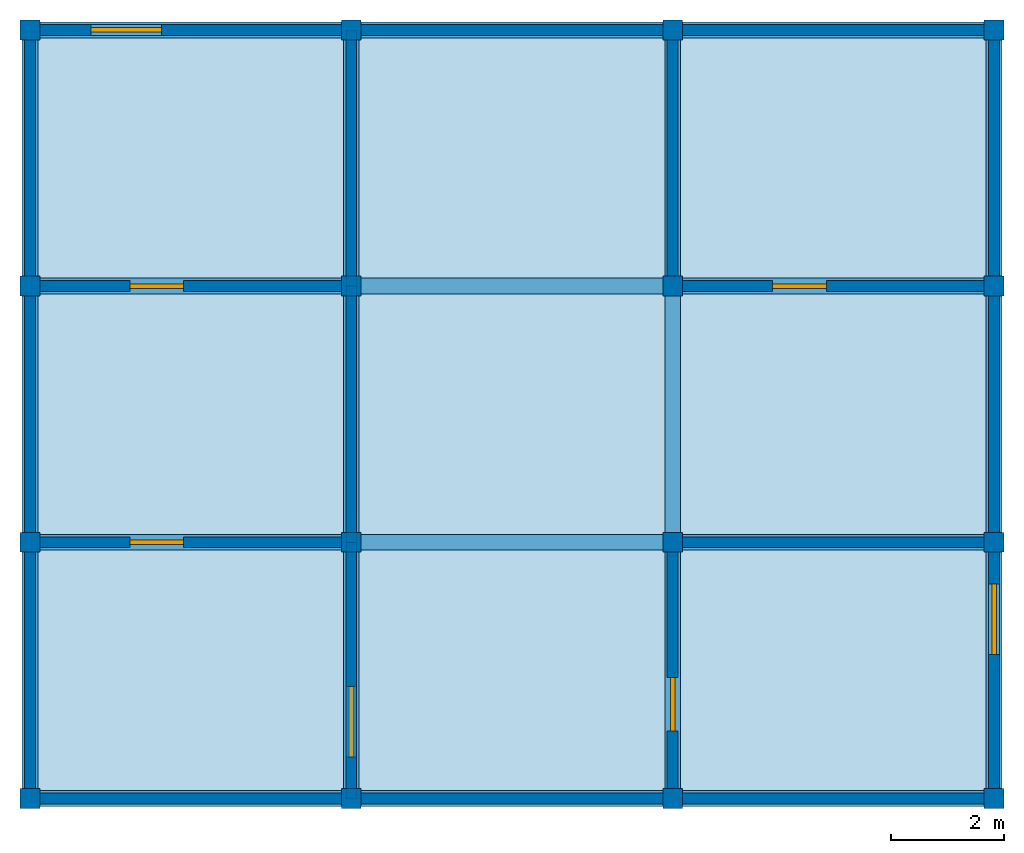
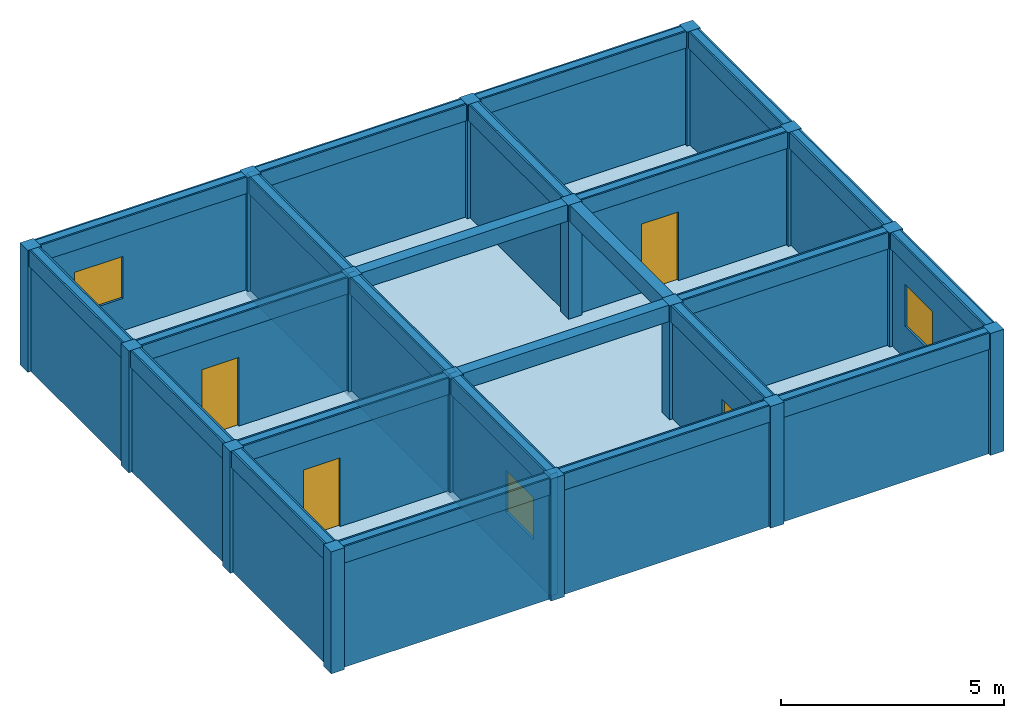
# One storey: 24 beams, 24 walls, 16 columns, 4 doors, 3 windows, 1 slab, 7 openings.
"""IFC4X3 building model written with IfcOpenShell, lengths in metres."""

from ifc_helpers import new_model, si_unit, frame, origin_with_axes, origin_2d, place, context, project, spatial, rectangle, extrude, material, element, fill, save


model = new_model("IFC4X3")

# Units and contexts
model_context = context("Model", 3, precision=1e-05, world=origin_with_axes())
ifc_project = project(units=[si_unit("LENGTHUNIT", "METRE"), si_unit("AREAUNIT", "SQUARE_METRE"), si_unit("VOLUMEUNIT", "CUBIC_METRE")], contexts=[model_context])

# Site, building, storey
site = spatial("IfcSite", under=ifc_project, Name="Valdivia Parcel", CompositionType="ELEMENT")
building = spatial("IfcBuilding", under=site, Name="Strata Block", CompositionType="ELEMENT")
storey = spatial("IfcBuildingStorey", under=building, Name="Level 8", CompositionType="ELEMENT", Elevation=23.35)

# Columns
ifc_material_1 = material(Name="Timber")
column_1_placement = place(None, frame((-8.525, -6.795, 23.348), z_axis=(0.0, 0.0, 1.0), x_axis=(1.0, 0.0, 0.0)))
element("IfcColumn", 1, at=column_1_placement, inside=storey, material=ifc_material_1, Name="Column 8.1", ObjectType="Core Column", PredefinedType="NOTDEFINED", context=model_context, shape_type="SweptSolid", body=[
    extrude(rectangle(XDim=0.35, YDim=0.35, at=origin_2d()), origin_with_axes(), (0.0, 0.0, 1.0), 3.335),
])
column_2_placement = place(None, frame((-8.525, -2.265, 23.348), z_axis=(0.0, 0.0, 1.0), x_axis=(1.0, 0.0, 0.0)))
element("IfcColumn", 2, at=column_2_placement, inside=storey, material=ifc_material_1, Name="Column 8.2", ObjectType="Corner Column", PredefinedType="USERDEFINED", context=model_context, shape_type="SweptSolid", body=[
    extrude(rectangle(XDim=0.35, YDim=0.35, at=origin_2d()), origin_with_axes(), (0.0, 0.0, 1.0), 3.335),
])
column_3_placement = place(None, frame((-8.525, 2.265, 23.348), z_axis=(0.0, 0.0, 1.0), x_axis=(1.0, 0.0, 0.0)))
element("IfcColumn", 3, at=column_3_placement, inside=storey, material=ifc_material_1, Name="Column 8.3", ObjectType="Structural Column", PredefinedType="USERDEFINED", context=model_context, shape_type="SweptSolid", body=[
    extrude(rectangle(XDim=0.35, YDim=0.35, at=origin_2d()), origin_with_axes(), (0.0, 0.0, 1.0), 3.335),
])
column_4_placement = place(None, frame((-8.525, 6.795, 23.348), z_axis=(0.0, 0.0, 1.0), x_axis=(1.0, 0.0, 0.0)))
element("IfcColumn", 4, at=column_4_placement, inside=storey, material=ifc_material_1, Name="Column 8.4", ObjectType="Core Column", PredefinedType="NOTDEFINED", context=model_context, shape_type="SweptSolid", body=[
    extrude(rectangle(XDim=0.35, YDim=0.35, at=origin_2d()), origin_with_axes(), (0.0, 0.0, 1.0), 3.335),
])
column_5_placement = place(None, frame((-2.842, -6.795, 23.348), z_axis=(0.0, 0.0, 1.0), x_axis=(1.0, 0.0, 0.0)))
element("IfcColumn", 5, at=column_5_placement, inside=storey, material=ifc_material_1, Name="Column 8.5", ObjectType="Structural Column", PredefinedType="PILASTER", context=model_context, shape_type="SweptSolid", body=[
    extrude(rectangle(XDim=0.35, YDim=0.35, at=origin_2d()), origin_with_axes(), (0.0, 0.0, 1.0), 3.335),
])
column_6_placement = place(None, frame((-2.842, -2.265, 23.348), z_axis=(0.0, 0.0, 1.0), x_axis=(1.0, 0.0, 0.0)))
element("IfcColumn", 6, at=column_6_placement, inside=storey, material=ifc_material_1, Name="Column 8.6", ObjectType="Corner Column", PredefinedType="NOTDEFINED", context=model_context, shape_type="SweptSolid", body=[
    extrude(rectangle(XDim=0.35, YDim=0.35, at=origin_2d()), origin_with_axes(), (0.0, 0.0, 1.0), 3.335),
])
column_7_placement = place(None, frame((-2.842, 2.265, 23.348), z_axis=(0.0, 0.0, 1.0), x_axis=(1.0, 0.0, 0.0)))
element("IfcColumn", 7, at=column_7_placement, inside=storey, material=ifc_material_1, Name="Column 8.7", ObjectType="Corner Column", PredefinedType="USERDEFINED", context=model_context, shape_type="SweptSolid", body=[
    extrude(rectangle(XDim=0.35, YDim=0.35, at=origin_2d()), origin_with_axes(), (0.0, 0.0, 1.0), 3.335),
])
column_8_placement = place(None, frame((-2.842, 6.795, 23.348), z_axis=(0.0, 0.0, 1.0), x_axis=(1.0, 0.0, 0.0)))
element("IfcColumn", 8, at=column_8_placement, inside=storey, material=ifc_material_1, Name="Column 8.8", ObjectType="Corner Column", PredefinedType="COLUMN", context=model_context, shape_type="SweptSolid", body=[
    extrude(rectangle(XDim=0.35, YDim=0.35, at=origin_2d()), origin_with_axes(), (0.0, 0.0, 1.0), 3.335),
])
for number, where, z_axis, x_axis, name in (
    (9, (2.841, -6.795, 23.348), (0.0, 0.0, 1.0), (1.0, 0.0, 0.0), "Column 8.9"),
    (10, (2.841, -2.265, 23.348), (0.0, 0.0, 1.0), (1.0, 0.0, 0.0), "Column 8.10"),
):
    element("IfcColumn", number, at=place(None, frame(where, z_axis=z_axis, x_axis=x_axis)), inside=storey, material=ifc_material_1, Name=name, ObjectType="Facade Column", PredefinedType="COLUMN", context=model_context, shape_type="SweptSolid", body=[
        extrude(rectangle(XDim=0.35, YDim=0.35, at=origin_2d()), origin_with_axes(), (0.0, 0.0, 1.0), 3.335),
    ])
column_9_placement = place(None, frame((2.841, 2.265, 23.348), z_axis=(0.0, 0.0, 1.0), x_axis=(1.0, 0.0, 0.0)))
element("IfcColumn", 11, at=column_9_placement, inside=storey, material=ifc_material_1, Name="Column 8.11", ObjectType="Structural Column", PredefinedType="USERDEFINED", context=model_context, shape_type="SweptSolid", body=[
    extrude(rectangle(XDim=0.35, YDim=0.35, at=origin_2d()), origin_with_axes(), (0.0, 0.0, 1.0), 3.335),
])
column_10_placement = place(None, frame((2.841, 6.795, 23.348), z_axis=(0.0, 0.0, 1.0), x_axis=(1.0, 0.0, 0.0)))
element("IfcColumn", 12, at=column_10_placement, inside=storey, material=ifc_material_1, Name="Column 8.12", ObjectType="Structural Column", PredefinedType="NOTDEFINED", context=model_context, shape_type="SweptSolid", body=[
    extrude(rectangle(XDim=0.35, YDim=0.35, at=origin_2d()), origin_with_axes(), (0.0, 0.0, 1.0), 3.335),
])
column_11_placement = place(None, frame((8.524, -6.795, 23.348), z_axis=(0.0, 0.0, 1.0), x_axis=(1.0, 0.0, 0.0)))
element("IfcColumn", 13, at=column_11_placement, inside=storey, material=ifc_material_1, Name="Column 8.13", ObjectType="Structural Column", PredefinedType="PILASTER", context=model_context, shape_type="SweptSolid", body=[
    extrude(rectangle(XDim=0.35, YDim=0.35, at=origin_2d()), origin_with_axes(), (0.0, 0.0, 1.0), 3.335),
])
column_12_placement = place(None, frame((8.524, -2.265, 23.348), z_axis=(0.0, 0.0, 1.0), x_axis=(1.0, 0.0, 0.0)))
element("IfcColumn", 14, at=column_12_placement, inside=storey, material=ifc_material_1, Name="Column 8.14", ObjectType="Core Column", PredefinedType="COLUMN", context=model_context, shape_type="SweptSolid", body=[
    extrude(rectangle(XDim=0.35, YDim=0.35, at=origin_2d()), origin_with_axes(), (0.0, 0.0, 1.0), 3.335),
])
column_13_placement = place(None, frame((8.524, 2.265, 23.348), z_axis=(0.0, 0.0, 1.0), x_axis=(1.0, 0.0, 0.0)))
element("IfcColumn", 15, at=column_13_placement, inside=storey, material=ifc_material_1, Name="Column 8.15", ObjectType="Corner Column", PredefinedType="COLUMN", context=model_context, shape_type="SweptSolid", body=[
    extrude(rectangle(XDim=0.35, YDim=0.35, at=origin_2d()), origin_with_axes(), (0.0, 0.0, 1.0), 3.335),
])
column_14_placement = place(None, frame((8.524, 6.795, 23.348), z_axis=(0.0, 0.0, 1.0), x_axis=(1.0, 0.0, 0.0)))
element("IfcColumn", 16, at=column_14_placement, inside=storey, material=ifc_material_1, Name="Column 8.16", ObjectType="Core Column", PredefinedType="PILASTER", context=model_context, shape_type="SweptSolid", body=[
    extrude(rectangle(XDim=0.35, YDim=0.35, at=origin_2d()), origin_with_axes(), (0.0, 0.0, 1.0), 3.335),
])

# Beams
beam_1_placement = place(None, frame((-5.684, -6.795, 26.233), z_axis=(0.0, 0.0, 1.0), x_axis=(1.0, 0.0, 0.0)))
element("IfcBeam", 17, at=beam_1_placement, inside=storey, material=ifc_material_1, Name="Beam 8.1", ObjectType="Secondary Beam", PredefinedType="HOLLOWCORE", context=model_context, shape_type="SweptSolid", body=[
    extrude(rectangle(XDim=5.683, YDim=0.28, at=origin_2d()), origin_with_axes(), (0.0, 0.0, 1.0), 0.45),
])
beam_2_placement = place(None, frame((0.0, -6.795, 26.233), z_axis=(0.0, 0.0, 1.0), x_axis=(1.0, 0.0, 0.0)))
element("IfcBeam", 18, at=beam_2_placement, inside=storey, material=ifc_material_1, Name="Beam 8.2", ObjectType="Transfer Beam", PredefinedType="LINTEL", context=model_context, shape_type="SweptSolid", body=[
    extrude(rectangle(XDim=5.683, YDim=0.28, at=origin_2d()), origin_with_axes(), (0.0, 0.0, 1.0), 0.45),
])
beam_3_placement = place(None, frame((5.682, -6.795, 26.233), z_axis=(0.0, 0.0, 1.0), x_axis=(1.0, 0.0, 0.0)))
element("IfcBeam", 19, at=beam_3_placement, inside=storey, material=ifc_material_1, Name="Beam 8.3", ObjectType="Secondary Beam", PredefinedType="NOTDEFINED", context=model_context, shape_type="SweptSolid", body=[
    extrude(rectangle(XDim=5.683, YDim=0.28, at=origin_2d()), origin_with_axes(), (0.0, 0.0, 1.0), 0.45),
])
beam_4_placement = place(None, frame((-5.684, -2.265, 26.233), z_axis=(0.0, 0.0, 1.0), x_axis=(1.0, 0.0, 0.0)))
element("IfcBeam", 20, at=beam_4_placement, inside=storey, material=ifc_material_1, Name="Beam 8.4", ObjectType="Secondary Beam", PredefinedType="JOIST", context=model_context, shape_type="SweptSolid", body=[
    extrude(rectangle(XDim=5.683, YDim=0.28, at=origin_2d()), origin_with_axes(), (0.0, 0.0, 1.0), 0.45),
])
beam_5_placement = place(None, frame((0.0, -2.265, 26.233), z_axis=(0.0, 0.0, 1.0), x_axis=(1.0, 0.0, 0.0)))
element("IfcBeam", 21, at=beam_5_placement, inside=storey, material=ifc_material_1, Name="Beam 8.5", ObjectType="Ridge Beam", PredefinedType="JOIST", context=model_context, shape_type="SweptSolid", body=[
    extrude(rectangle(XDim=5.683, YDim=0.28, at=origin_2d()), origin_with_axes(), (0.0, 0.0, 1.0), 0.45),
])
beam_6_placement = place(None, frame((5.682, -2.265, 26.233), z_axis=(0.0, 0.0, 1.0), x_axis=(1.0, 0.0, 0.0)))
element("IfcBeam", 22, at=beam_6_placement, inside=storey, material=ifc_material_1, Name="Beam 8.6", ObjectType="Transfer Beam", PredefinedType="NOTDEFINED", context=model_context, shape_type="SweptSolid", body=[
    extrude(rectangle(XDim=5.683, YDim=0.28, at=origin_2d()), origin_with_axes(), (0.0, 0.0, 1.0), 0.45),
])
beam_7_placement = place(None, frame((-5.684, 2.265, 26.233), z_axis=(0.0, 0.0, 1.0), x_axis=(1.0, 0.0, 0.0)))
element("IfcBeam", 23, at=beam_7_placement, inside=storey, material=ifc_material_1, Name="Beam 8.7", ObjectType="Primary Beam", PredefinedType="SPANDREL", context=model_context, shape_type="SweptSolid", body=[
    extrude(rectangle(XDim=5.683, YDim=0.28, at=origin_2d()), origin_with_axes(), (0.0, 0.0, 1.0), 0.45),
])
beam_8_placement = place(None, frame((0.0, 2.265, 26.233), z_axis=(0.0, 0.0, 1.0), x_axis=(1.0, 0.0, 0.0)))
element("IfcBeam", 24, at=beam_8_placement, inside=storey, material=ifc_material_1, Name="Beam 8.8", ObjectType="Secondary Beam", PredefinedType="JOIST", context=model_context, shape_type="SweptSolid", body=[
    extrude(rectangle(XDim=5.683, YDim=0.28, at=origin_2d()), origin_with_axes(), (0.0, 0.0, 1.0), 0.45),
])
beam_9_placement = place(None, frame((5.682, 2.265, 26.233), z_axis=(0.0, 0.0, 1.0), x_axis=(1.0, 0.0, 0.0)))
element("IfcBeam", 25, at=beam_9_placement, inside=storey, material=ifc_material_1, Name="Beam 8.9", ObjectType="Primary Beam", PredefinedType="HOLLOWCORE", context=model_context, shape_type="SweptSolid", body=[
    extrude(rectangle(XDim=5.683, YDim=0.28, at=origin_2d()), origin_with_axes(), (0.0, 0.0, 1.0), 0.45),
])
beam_10_placement = place(None, frame((-5.684, 6.795, 26.233), z_axis=(0.0, 0.0, 1.0), x_axis=(1.0, 0.0, 0.0)))
element("IfcBeam", 26, at=beam_10_placement, inside=storey, material=ifc_material_1, Name="Beam 8.10", ObjectType="Ridge Beam", PredefinedType="HOLLOWCORE", context=model_context, shape_type="SweptSolid", body=[
    extrude(rectangle(XDim=5.683, YDim=0.28, at=origin_2d()), origin_with_axes(), (0.0, 0.0, 1.0), 0.45),
])
beam_11_placement = place(None, frame((0.0, 6.795, 26.233), z_axis=(0.0, 0.0, 1.0), x_axis=(1.0, 0.0, 0.0)))
element("IfcBeam", 27, at=beam_11_placement, inside=storey, material=ifc_material_1, Name="Beam 8.11", ObjectType="Ridge Beam", PredefinedType="T_BEAM", context=model_context, shape_type="SweptSolid", body=[
    extrude(rectangle(XDim=5.683, YDim=0.28, at=origin_2d()), origin_with_axes(), (0.0, 0.0, 1.0), 0.45),
])
beam_12_placement = place(None, frame((5.682, 6.795, 26.233), z_axis=(0.0, 0.0, 1.0), x_axis=(1.0, 0.0, 0.0)))
element("IfcBeam", 28, at=beam_12_placement, inside=storey, material=ifc_material_1, Name="Beam 8.12", ObjectType="Secondary Beam", PredefinedType="USERDEFINED", context=model_context, shape_type="SweptSolid", body=[
    extrude(rectangle(XDim=5.683, YDim=0.28, at=origin_2d()), origin_with_axes(), (0.0, 0.0, 1.0), 0.45),
])
beam_13_placement = place(None, frame((-8.525, -4.53, 26.233), z_axis=(0.0, 0.0, 1.0), x_axis=(0.0, 1.0, 0.0)))
element("IfcBeam", 29, at=beam_13_placement, inside=storey, material=ifc_material_1, Name="Beam 8.13", ObjectType="Rafter Beam", PredefinedType="BEAM", context=model_context, shape_type="SweptSolid", body=[
    extrude(rectangle(XDim=4.53, YDim=0.28, at=origin_2d()), origin_with_axes(), (0.0, 0.0, 1.0), 0.45),
])
beam_14_placement = place(None, frame((-8.525, 0.0, 26.233), z_axis=(0.0, 0.0, 1.0), x_axis=(0.0, 1.0, 0.0)))
element("IfcBeam", 30, at=beam_14_placement, inside=storey, material=ifc_material_1, Name="Beam 8.14", ObjectType="Secondary Beam", PredefinedType="T_BEAM", context=model_context, shape_type="SweptSolid", body=[
    extrude(rectangle(XDim=4.53, YDim=0.28, at=origin_2d()), origin_with_axes(), (0.0, 0.0, 1.0), 0.45),
])
beam_15_placement = place(None, frame((-8.525, 4.53, 26.233), z_axis=(0.0, 0.0, 1.0), x_axis=(0.0, 1.0, 0.0)))
element("IfcBeam", 31, at=beam_15_placement, inside=storey, material=ifc_material_1, Name="Beam 8.15", ObjectType="Rafter Beam", PredefinedType="SPANDREL", context=model_context, shape_type="SweptSolid", body=[
    extrude(rectangle(XDim=4.53, YDim=0.28, at=origin_2d()), origin_with_axes(), (0.0, 0.0, 1.0), 0.45),
])
beam_16_placement = place(None, frame((-2.842, -4.53, 26.233), z_axis=(0.0, 0.0, 1.0), x_axis=(0.0, 1.0, 0.0)))
element("IfcBeam", 32, at=beam_16_placement, inside=storey, material=ifc_material_1, Name="Beam 8.16", ObjectType="Secondary Beam", PredefinedType="NOTDEFINED", context=model_context, shape_type="SweptSolid", body=[
    extrude(rectangle(XDim=4.53, YDim=0.28, at=origin_2d()), origin_with_axes(), (0.0, 0.0, 1.0), 0.45),
])
beam_17_placement = place(None, frame((-2.842, 0.0, 26.233), z_axis=(0.0, 0.0, 1.0), x_axis=(0.0, 1.0, 0.0)))
element("IfcBeam", 33, at=beam_17_placement, inside=storey, material=ifc_material_1, Name="Beam 8.17", ObjectType="Transfer Beam", PredefinedType="JOIST", context=model_context, shape_type="SweptSolid", body=[
    extrude(rectangle(XDim=4.53, YDim=0.28, at=origin_2d()), origin_with_axes(), (0.0, 0.0, 1.0), 0.45),
])
beam_18_placement = place(None, frame((-2.842, 4.53, 26.233), z_axis=(0.0, 0.0, 1.0), x_axis=(0.0, 1.0, 0.0)))
element("IfcBeam", 34, at=beam_18_placement, inside=storey, material=ifc_material_1, Name="Beam 8.18", ObjectType="Primary Beam", PredefinedType="NOTDEFINED", context=model_context, shape_type="SweptSolid", body=[
    extrude(rectangle(XDim=4.53, YDim=0.28, at=origin_2d()), origin_with_axes(), (0.0, 0.0, 1.0), 0.45),
])
beam_19_placement = place(None, frame((2.841, -4.53, 26.233), z_axis=(0.0, 0.0, 1.0), x_axis=(0.0, 1.0, 0.0)))
element("IfcBeam", 35, at=beam_19_placement, inside=storey, material=ifc_material_1, Name="Beam 8.19", ObjectType="Transfer Beam", PredefinedType="HOLLOWCORE", context=model_context, shape_type="SweptSolid", body=[
    extrude(rectangle(XDim=4.53, YDim=0.28, at=origin_2d()), origin_with_axes(), (0.0, 0.0, 1.0), 0.45),
])
beam_20_placement = place(None, frame((2.841, 0.0, 26.233), z_axis=(0.0, 0.0, 1.0), x_axis=(0.0, 1.0, 0.0)))
element("IfcBeam", 36, at=beam_20_placement, inside=storey, material=ifc_material_1, Name="Beam 8.20", ObjectType="Secondary Beam", PredefinedType="T_BEAM", context=model_context, shape_type="SweptSolid", body=[
    extrude(rectangle(XDim=4.53, YDim=0.28, at=origin_2d()), origin_with_axes(), (0.0, 0.0, 1.0), 0.45),
])
beam_21_placement = place(None, frame((2.841, 4.53, 26.233), z_axis=(0.0, 0.0, 1.0), x_axis=(0.0, 1.0, 0.0)))
element("IfcBeam", 37, at=beam_21_placement, inside=storey, material=ifc_material_1, Name="Beam 8.21", ObjectType="Rafter Beam", PredefinedType="BEAM", context=model_context, shape_type="SweptSolid", body=[
    extrude(rectangle(XDim=4.53, YDim=0.28, at=origin_2d()), origin_with_axes(), (0.0, 0.0, 1.0), 0.45),
])
beam_22_placement = place(None, frame((8.524, -4.53, 26.233), z_axis=(0.0, 0.0, 1.0), x_axis=(0.0, 1.0, 0.0)))
element("IfcBeam", 38, at=beam_22_placement, inside=storey, material=ifc_material_1, Name="Beam 8.22", ObjectType="Secondary Beam", PredefinedType="HOLLOWCORE", context=model_context, shape_type="SweptSolid", body=[
    extrude(rectangle(XDim=4.53, YDim=0.28, at=origin_2d()), origin_with_axes(), (0.0, 0.0, 1.0), 0.45),
])
beam_23_placement = place(None, frame((8.524, 0.0, 26.233), z_axis=(0.0, 0.0, 1.0), x_axis=(0.0, 1.0, 0.0)))
element("IfcBeam", 39, at=beam_23_placement, inside=storey, material=ifc_material_1, Name="Beam 8.23", ObjectType="Ridge Beam", PredefinedType="JOIST", context=model_context, shape_type="SweptSolid", body=[
    extrude(rectangle(XDim=4.53, YDim=0.28, at=origin_2d()), origin_with_axes(), (0.0, 0.0, 1.0), 0.45),
])
beam_24_placement = place(None, frame((8.524, 4.53, 26.233), z_axis=(0.0, 0.0, 1.0), x_axis=(0.0, 1.0, 0.0)))
element("IfcBeam", 40, at=beam_24_placement, inside=storey, material=ifc_material_1, Name="Beam 8.24", ObjectType="Secondary Beam", PredefinedType="NOTDEFINED", context=model_context, shape_type="SweptSolid", body=[
    extrude(rectangle(XDim=4.53, YDim=0.28, at=origin_2d()), origin_with_axes(), (0.0, 0.0, 1.0), 0.45),
])

# Slab
ifc_material_2 = material(Name="Concrete")
slab_placement = place(None, frame((0.0, 0.0, 23.35), z_axis=(0.0, 0.0, 1.0), x_axis=(1.0, 0.0, 0.0)))
element("IfcSlab", 41, at=slab_placement, inside=storey, material=ifc_material_2, Name="Slab 8", ObjectType="Floor Slab", PredefinedType="FLOOR", context=model_context, shape_type="SweptSolid", body=[
    extrude(rectangle(XDim=17.05, YDim=13.59, at=origin_2d()), origin_with_axes(), (0.0, 0.0, 1.0), 0.22),
])

# Wall, opening, door
ifc_material_3 = material(Name="CLT")
wall_1_placement = place(None, frame((-5.684, -2.265, 23.348), z_axis=(0.0, 0.0, 1.0), x_axis=(1.0, 0.0, 0.0)))
wall_1 = element("IfcWall", 42, at=wall_1_placement, inside=storey, material=ifc_material_3, Name="Wall 8.1", ObjectType="Corridor Partition", PredefinedType="PLUMBINGWALL", context=model_context, shape_type="SweptSolid", body=[
    extrude(rectangle(XDim=5.683, YDim=0.192616, at=origin_2d()), origin_with_axes(), (0.0, 0.0, 1.0), 3.335),
])
opening_1_placement = place(None, frame((-6.284, -2.265, 23.348), z_axis=(0.0, 0.0, 1.0), x_axis=(1.0, 0.0, 0.0)))
opening_1 = element("IfcOpeningElement", 43, at=opening_1_placement, cuts=wall_1, Name="Door opening 8.1", ObjectType="Door Opening", PredefinedType="OPENING", context=model_context, shape_type="SweptSolid", body=[
    extrude(rectangle(XDim=0.95, YDim=0.272616, at=origin_2d()), origin_with_axes(), (0.0, 0.0, 1.0), 2.1),
])
door_1_placement = place(None, frame((-6.284, -2.265, 23.348), z_axis=(0.0, 0.0, 1.0), x_axis=(1.0, 0.0, 0.0)))
door_1 = element("IfcDoor", 44, at=door_1_placement, inside=storey, Name="Door 8.1", ObjectType="Interior Door", OverallHeight=2.1, OverallWidth=0.95, context=model_context, shape_type="SweptSolid", body=[
    extrude(rectangle(XDim=0.95, YDim=0.08, at=origin_2d()), origin_with_axes(), (0.0, 0.0, 1.0), 2.1),
])
fill(opening_1, door_1)

# Wall, opening, window
ifc_material_4 = material(Name="Gypsum")
wall_2_placement = place(None, frame((-2.8425, -4.53, 23.348), z_axis=(0.0, 0.0, 1.0), x_axis=(0.0, 1.0, 0.0)))
wall_2 = element("IfcWall", 45, at=wall_2_placement, inside=storey, material=ifc_material_4, Name="Wall 8.2", ObjectType="Exterior Wall", PredefinedType="PARTITIONING", context=model_context, shape_type="SweptSolid", body=[
    extrude(rectangle(XDim=4.53, YDim=0.192616, at=origin_2d()), origin_with_axes(), (0.0, 0.0, 1.0), 3.335),
])
opening_2_placement = place(None, frame((-2.843, -5.436, 24.448), z_axis=(0.0, 0.0, 1.0), x_axis=(0.0, 1.0, 0.0)))
opening_2 = element("IfcOpeningElement", 46, at=opening_2_placement, cuts=wall_2, Name="Window opening 8.2", ObjectType="Window Opening", PredefinedType="OPENING", context=model_context, shape_type="SweptSolid", body=[
    extrude(rectangle(XDim=1.25, YDim=0.272616, at=origin_2d()), origin_with_axes(), (0.0, 0.0, 1.0), 1.15),
])
window_1_placement = place(None, frame((-2.843, -5.436, 24.448), z_axis=(0.0, 0.0, 1.0), x_axis=(0.0, 1.0, 0.0)))
window_1 = element("IfcWindow", 47, at=window_1_placement, inside=storey, Name="Window 8.2", ObjectType="Louvre Window", OverallHeight=1.15, OverallWidth=1.25, context=model_context, shape_type="SweptSolid", body=[
    extrude(rectangle(XDim=1.25, YDim=0.08, at=origin_2d()), origin_with_axes(), (0.0, 0.0, 1.0), 1.15),
])
fill(opening_2, window_1)

# Walls
wall_3_placement = place(None, frame((-5.684, -6.795, 23.348), z_axis=(0.0, 0.0, 1.0), x_axis=(1.0, 0.0, 0.0)))
element("IfcWall", 48, at=wall_3_placement, inside=storey, material=ifc_material_2, Name="Wall 8.3", ObjectType="Exterior Wall", PredefinedType="ELEMENTEDWALL", context=model_context, shape_type="SweptSolid", body=[
    extrude(rectangle(XDim=5.683, YDim=0.192616, at=origin_2d()), origin_with_axes(), (0.0, 0.0, 1.0), 3.335),
])
wall_4_placement = place(None, frame((-8.5255, -4.53, 23.348), z_axis=(0.0, 0.0, 1.0), x_axis=(0.0, 1.0, 0.0)))
element("IfcWall", 49, at=wall_4_placement, inside=storey, material=ifc_material_2, Name="Wall 8.4", ObjectType="Exterior Wall", PredefinedType="SOLIDWALL", context=model_context, shape_type="SweptSolid", body=[
    extrude(rectangle(XDim=4.53, YDim=0.192616, at=origin_2d()), origin_with_axes(), (0.0, 0.0, 1.0), 3.335),
])

# Wall, opening, door
wall_5_placement = place(None, frame((2.8405, -4.53, 23.348), z_axis=(0.0, 0.0, 1.0), x_axis=(0.0, 1.0, 0.0)))
wall_5 = element("IfcWall", 50, at=wall_5_placement, inside=storey, material=ifc_material_2, Name="Wall 8.5", ObjectType="Corridor Partition", PredefinedType="MOVABLE", context=model_context, shape_type="SweptSolid", body=[
    extrude(rectangle(XDim=4.53, YDim=0.192616, at=origin_2d()), origin_with_axes(), (0.0, 0.0, 1.0), 3.335),
])
opening_3_placement = place(None, frame((2.841, -5.13, 23.348), z_axis=(0.0, 0.0, 1.0), x_axis=(0.0, 1.0, 0.0)))
opening_3 = element("IfcOpeningElement", 51, at=opening_3_placement, cuts=wall_5, Name="Door opening 8.3", ObjectType="Door Opening", PredefinedType="OPENING", context=model_context, shape_type="SweptSolid", body=[
    extrude(rectangle(XDim=0.95, YDim=0.272616, at=origin_2d()), origin_with_axes(), (0.0, 0.0, 1.0), 2.1),
])
door_2_placement = place(None, frame((2.841, -5.13, 23.348), z_axis=(0.0, 0.0, 1.0), x_axis=(0.0, 1.0, 0.0)))
door_2 = element("IfcDoor", 52, at=door_2_placement, inside=storey, Name="Door 8.3", ObjectType="Fire Door", OverallHeight=2.1, OverallWidth=0.95, context=model_context, shape_type="SweptSolid", body=[
    extrude(rectangle(XDim=0.95, YDim=0.08, at=origin_2d()), origin_with_axes(), (0.0, 0.0, 1.0), 2.1),
])
fill(opening_3, door_2)

# Walls
wall_6_placement = place(None, frame((-0.001, -6.795, 23.348), z_axis=(0.0, 0.0, 1.0), x_axis=(1.0, 0.0, 0.0)))
element("IfcWall", 53, at=wall_6_placement, inside=storey, material=ifc_material_3, Name="Wall 8.6", ObjectType="Exterior Wall", PredefinedType="PARTITIONING", context=model_context, shape_type="SweptSolid", body=[
    extrude(rectangle(XDim=5.683, YDim=0.192616, at=origin_2d()), origin_with_axes(), (0.0, 0.0, 1.0), 3.335),
])
wall_7_placement = place(None, frame((-2.8425, -4.53, 23.348), z_axis=(0.0, 0.0, 1.0), x_axis=(0.0, 1.0, 0.0)))
element("IfcWall", 54, at=wall_7_placement, inside=storey, material=ifc_material_2, Name="Wall 8.7", ObjectType="Exterior Wall", PredefinedType="PARAPET", context=model_context, shape_type="SweptSolid", body=[
    extrude(rectangle(XDim=4.53, YDim=0.192616, at=origin_2d()), origin_with_axes(), (0.0, 0.0, 1.0), 3.335),
])
wall_8_placement = place(None, frame((5.682, -2.265, 23.348), z_axis=(0.0, 0.0, 1.0), x_axis=(1.0, 0.0, 0.0)))
element("IfcWall", 55, at=wall_8_placement, inside=storey, material=ifc_material_3, Name="Wall 8.8", ObjectType="Corridor Partition", PredefinedType="PLUMBINGWALL", context=model_context, shape_type="SweptSolid", body=[
    extrude(rectangle(XDim=5.683, YDim=0.192616, at=origin_2d()), origin_with_axes(), (0.0, 0.0, 1.0), 3.335),
])

# Wall, opening, window
wall_9_placement = place(None, frame((8.5235, -4.53, 23.348), z_axis=(0.0, 0.0, 1.0), x_axis=(0.0, 1.0, 0.0)))
wall_9 = element("IfcWall", 56, at=wall_9_placement, inside=storey, material=ifc_material_3, Name="Wall 8.9", ObjectType="Exterior Wall", PredefinedType="SHEAR", context=model_context, shape_type="SweptSolid", body=[
    extrude(rectangle(XDim=4.53, YDim=0.192616, at=origin_2d()), origin_with_axes(), (0.0, 0.0, 1.0), 3.335),
])
opening_4_placement = place(None, frame((8.524, -3.624, 24.448), z_axis=(0.0, 0.0, 1.0), x_axis=(0.0, 1.0, 0.0)))
opening_4 = element("IfcOpeningElement", 57, at=opening_4_placement, cuts=wall_9, Name="Window opening 8.4", ObjectType="Window Opening", PredefinedType="OPENING", context=model_context, shape_type="SweptSolid", body=[
    extrude(rectangle(XDim=1.25, YDim=0.272616, at=origin_2d()), origin_with_axes(), (0.0, 0.0, 1.0), 1.15),
])
window_2_placement = place(None, frame((8.524, -3.624, 24.448), z_axis=(0.0, 0.0, 1.0), x_axis=(0.0, 1.0, 0.0)))
window_2 = element("IfcWindow", 58, at=window_2_placement, inside=storey, Name="Window 8.4", ObjectType="Louvre Window", OverallHeight=1.15, OverallWidth=1.25, context=model_context, shape_type="SweptSolid", body=[
    extrude(rectangle(XDim=1.25, YDim=0.08, at=origin_2d()), origin_with_axes(), (0.0, 0.0, 1.0), 1.15),
])
fill(opening_4, window_2)

# Wall
wall_10_placement = place(None, frame((5.682, -6.795, 23.348), z_axis=(0.0, 0.0, 1.0), x_axis=(1.0, 0.0, 0.0)))
element("IfcWall", 59, at=wall_10_placement, inside=storey, material=ifc_material_4, Name="Wall 8.10", ObjectType="Exterior Wall", PredefinedType="ELEMENTEDWALL", context=model_context, shape_type="SweptSolid", body=[
    extrude(rectangle(XDim=5.683, YDim=0.192616, at=origin_2d()), origin_with_axes(), (0.0, 0.0, 1.0), 3.335),
])

# Wall, opening, door
wall_11_placement = place(None, frame((-5.684, 2.265, 23.348), z_axis=(0.0, 0.0, 1.0), x_axis=(1.0, 0.0, 0.0)))
wall_11 = element("IfcWall", 60, at=wall_11_placement, inside=storey, material=ifc_material_2, Name="Wall 8.11", ObjectType="Corridor Partition", PredefinedType="USERDEFINED", context=model_context, shape_type="SweptSolid", body=[
    extrude(rectangle(XDim=5.683, YDim=0.192616, at=origin_2d()), origin_with_axes(), (0.0, 0.0, 1.0), 3.335),
])
opening_5_placement = place(None, frame((-6.284, 2.265, 23.348), z_axis=(0.0, 0.0, 1.0), x_axis=(1.0, 0.0, 0.0)))
opening_5 = element("IfcOpeningElement", 61, at=opening_5_placement, cuts=wall_11, Name="Door opening 8.5", ObjectType="Door Opening", PredefinedType="OPENING", context=model_context, shape_type="SweptSolid", body=[
    extrude(rectangle(XDim=0.95, YDim=0.272616, at=origin_2d()), origin_with_axes(), (0.0, 0.0, 1.0), 2.1),
])
door_3_placement = place(None, frame((-6.284, 2.265, 23.348), z_axis=(0.0, 0.0, 1.0), x_axis=(1.0, 0.0, 0.0)))
door_3 = element("IfcDoor", 62, at=door_3_placement, inside=storey, Name="Door 8.5", ObjectType="Interior Door", OverallHeight=2.1, OverallWidth=0.95, context=model_context, shape_type="SweptSolid", body=[
    extrude(rectangle(XDim=0.95, YDim=0.08, at=origin_2d()), origin_with_axes(), (0.0, 0.0, 1.0), 2.1),
])
fill(opening_5, door_3)

# Walls
ifc_material_5 = material(Name="Brick")
wall_12_placement = place(None, frame((-2.8425, 0.0, 23.348), z_axis=(0.0, 0.0, 1.0), x_axis=(0.0, 1.0, 0.0)))
element("IfcWall", 63, at=wall_12_placement, inside=storey, material=ifc_material_5, Name="Wall 8.12", ObjectType="Exterior Wall", PredefinedType="STANDARD", context=model_context, shape_type="SweptSolid", body=[
    extrude(rectangle(XDim=4.53, YDim=0.192616, at=origin_2d()), origin_with_axes(), (0.0, 0.0, 1.0), 3.335),
])
wall_13_placement = place(None, frame((-8.5255, 0.0, 23.348), z_axis=(0.0, 0.0, 1.0), x_axis=(0.0, 1.0, 0.0)))
element("IfcWall", 64, at=wall_13_placement, inside=storey, material=ifc_material_3, Name="Wall 8.13", ObjectType="Exterior Wall", PredefinedType="ELEMENTEDWALL", context=model_context, shape_type="SweptSolid", body=[
    extrude(rectangle(XDim=4.53, YDim=0.192616, at=origin_2d()), origin_with_axes(), (0.0, 0.0, 1.0), 3.335),
])
wall_14_placement = place(None, frame((-2.8425, 0.0, 23.348), z_axis=(0.0, 0.0, 1.0), x_axis=(0.0, 1.0, 0.0)))
element("IfcWall", 65, at=wall_14_placement, inside=storey, material=ifc_material_2, Name="Wall 8.14", ObjectType="Exterior Wall", PredefinedType="PARTITIONING", context=model_context, shape_type="SweptSolid", body=[
    extrude(rectangle(XDim=4.53, YDim=0.192616, at=origin_2d()), origin_with_axes(), (0.0, 0.0, 1.0), 3.335),
])

# Wall, opening, door
wall_15_placement = place(None, frame((5.682, 2.265, 23.348), z_axis=(0.0, 0.0, 1.0), x_axis=(1.0, 0.0, 0.0)))
wall_15 = element("IfcWall", 66, at=wall_15_placement, inside=storey, material=ifc_material_5, Name="Wall 8.15", ObjectType="Corridor Partition", PredefinedType="USERDEFINED", context=model_context, shape_type="SweptSolid", body=[
    extrude(rectangle(XDim=5.683, YDim=0.192616, at=origin_2d()), origin_with_axes(), (0.0, 0.0, 1.0), 3.335),
])
opening_6_placement = place(None, frame((5.082, 2.265, 23.348), z_axis=(0.0, 0.0, 1.0), x_axis=(1.0, 0.0, 0.0)))
opening_6 = element("IfcOpeningElement", 67, at=opening_6_placement, cuts=wall_15, Name="Door opening 8.7", ObjectType="Door Opening", PredefinedType="OPENING", context=model_context, shape_type="SweptSolid", body=[
    extrude(rectangle(XDim=0.95, YDim=0.272616, at=origin_2d()), origin_with_axes(), (0.0, 0.0, 1.0), 2.1),
])
door_4_placement = place(None, frame((5.082, 2.265, 23.348), z_axis=(0.0, 0.0, 1.0), x_axis=(1.0, 0.0, 0.0)))
door_4 = element("IfcDoor", 68, at=door_4_placement, inside=storey, Name="Door 8.7", ObjectType="Entry Door", OverallHeight=2.1, OverallWidth=0.95, context=model_context, shape_type="SweptSolid", body=[
    extrude(rectangle(XDim=0.95, YDim=0.08, at=origin_2d()), origin_with_axes(), (0.0, 0.0, 1.0), 2.1),
])
fill(opening_6, door_4)

# Wall
wall_16_placement = place(None, frame((8.5235, 0.0, 23.348), z_axis=(0.0, 0.0, 1.0), x_axis=(0.0, 1.0, 0.0)))
element("IfcWall", 69, at=wall_16_placement, inside=storey, material=ifc_material_5, Name="Wall 8.16", ObjectType="Exterior Wall", PredefinedType="SHEAR", context=model_context, shape_type="SweptSolid", body=[
    extrude(rectangle(XDim=4.53, YDim=0.192616, at=origin_2d()), origin_with_axes(), (0.0, 0.0, 1.0), 3.335),
])

# Wall, opening, window
wall_17_placement = place(None, frame((-5.684, 6.795, 23.348), z_axis=(0.0, 0.0, 1.0), x_axis=(1.0, 0.0, 0.0)))
wall_17 = element("IfcWall", 70, at=wall_17_placement, inside=storey, material=ifc_material_3, Name="Wall 8.17", ObjectType="Exterior Wall", PredefinedType="SHEAR", context=model_context, shape_type="SweptSolid", body=[
    extrude(rectangle(XDim=5.683, YDim=0.192616, at=origin_2d()), origin_with_axes(), (0.0, 0.0, 1.0), 3.335),
])
opening_7_placement = place(None, frame((-6.821, 6.795, 24.448), z_axis=(0.0, 0.0, 1.0), x_axis=(1.0, 0.0, 0.0)))
opening_7 = element("IfcOpeningElement", 71, at=opening_7_placement, cuts=wall_17, Name="Window opening 8.6", ObjectType="Window Opening", PredefinedType="OPENING", context=model_context, shape_type="SweptSolid", body=[
    extrude(rectangle(XDim=1.25, YDim=0.272616, at=origin_2d()), origin_with_axes(), (0.0, 0.0, 1.0), 1.15),
])
window_3_placement = place(None, frame((-6.821, 6.795, 24.448), z_axis=(0.0, 0.0, 1.0), x_axis=(1.0, 0.0, 0.0)))
window_3 = element("IfcWindow", 72, at=window_3_placement, inside=storey, Name="Window 8.6", ObjectType="Curtain Window", OverallHeight=1.15, OverallWidth=1.25, context=model_context, shape_type="SweptSolid", body=[
    extrude(rectangle(XDim=1.25, YDim=0.08, at=origin_2d()), origin_with_axes(), (0.0, 0.0, 1.0), 1.15),
])
fill(opening_7, window_3)

# Walls
wall_18_placement = place(None, frame((-2.8425, 4.53, 23.348), z_axis=(0.0, 0.0, 1.0), x_axis=(0.0, 1.0, 0.0)))
element("IfcWall", 73, at=wall_18_placement, inside=storey, material=ifc_material_4, Name="Wall 8.18", ObjectType="Exterior Wall", PredefinedType="PARAPET", context=model_context, shape_type="SweptSolid", body=[
    extrude(rectangle(XDim=4.53, YDim=0.192616, at=origin_2d()), origin_with_axes(), (0.0, 0.0, 1.0), 3.335),
])
wall_19_placement = place(None, frame((-8.5255, 4.53, 23.348), z_axis=(0.0, 0.0, 1.0), x_axis=(0.0, 1.0, 0.0)))
element("IfcWall", 74, at=wall_19_placement, inside=storey, material=ifc_material_5, Name="Wall 8.19", ObjectType="Exterior Wall", PredefinedType="SOLIDWALL", context=model_context, shape_type="SweptSolid", body=[
    extrude(rectangle(XDim=4.53, YDim=0.192616, at=origin_2d()), origin_with_axes(), (0.0, 0.0, 1.0), 3.335),
])
wall_20_placement = place(None, frame((-0.001, 6.795, 23.348), z_axis=(0.0, 0.0, 1.0), x_axis=(1.0, 0.0, 0.0)))
element("IfcWall", 75, at=wall_20_placement, inside=storey, material=ifc_material_4, Name="Wall 8.20", ObjectType="Exterior Wall", PredefinedType="SHEAR", context=model_context, shape_type="SweptSolid", body=[
    extrude(rectangle(XDim=5.683, YDim=0.192616, at=origin_2d()), origin_with_axes(), (0.0, 0.0, 1.0), 3.335),
])
wall_21_placement = place(None, frame((2.8405, 4.53, 23.348), z_axis=(0.0, 0.0, 1.0), x_axis=(0.0, 1.0, 0.0)))
element("IfcWall", 76, at=wall_21_placement, inside=storey, material=ifc_material_5, Name="Wall 8.21", ObjectType="Corridor Partition", PredefinedType="PARTITIONING", context=model_context, shape_type="SweptSolid", body=[
    extrude(rectangle(XDim=4.53, YDim=0.192616, at=origin_2d()), origin_with_axes(), (0.0, 0.0, 1.0), 3.335),
])
wall_22_placement = place(None, frame((-2.8425, 4.53, 23.348), z_axis=(0.0, 0.0, 1.0), x_axis=(0.0, 1.0, 0.0)))
element("IfcWall", 77, at=wall_22_placement, inside=storey, material=ifc_material_5, Name="Wall 8.22", ObjectType="Exterior Wall", PredefinedType="STANDARD", context=model_context, shape_type="SweptSolid", body=[
    extrude(rectangle(XDim=4.53, YDim=0.192616, at=origin_2d()), origin_with_axes(), (0.0, 0.0, 1.0), 3.335),
])
wall_23_placement = place(None, frame((5.682, 6.795, 23.348), z_axis=(0.0, 0.0, 1.0), x_axis=(1.0, 0.0, 0.0)))
element("IfcWall", 78, at=wall_23_placement, inside=storey, material=ifc_material_2, Name="Wall 8.23", ObjectType="Exterior Wall", PredefinedType="PARAPET", context=model_context, shape_type="SweptSolid", body=[
    extrude(rectangle(XDim=5.683, YDim=0.192616, at=origin_2d()), origin_with_axes(), (0.0, 0.0, 1.0), 3.335),
])
wall_24_placement = place(None, frame((8.5235, 4.53, 23.348), z_axis=(0.0, 0.0, 1.0), x_axis=(0.0, 1.0, 0.0)))
element("IfcWall", 79, at=wall_24_placement, inside=storey, material=ifc_material_5, Name="Wall 8.24", ObjectType="Exterior Wall", PredefinedType="STANDARD", context=model_context, shape_type="SweptSolid", body=[
    extrude(rectangle(XDim=4.53, YDim=0.192616, at=origin_2d()), origin_with_axes(), (0.0, 0.0, 1.0), 3.335),
])

save(model, "model.ifc")
